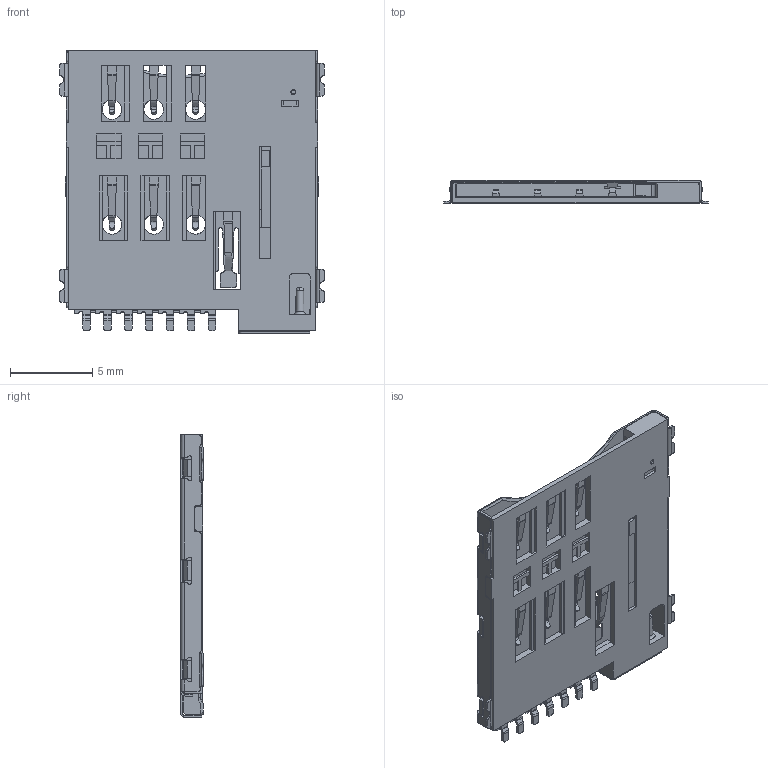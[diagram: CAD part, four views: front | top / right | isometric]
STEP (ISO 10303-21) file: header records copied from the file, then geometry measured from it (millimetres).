
FILE_DESCRIPTION(('CATIA V5 STEP Exchange'),'2;1');
FILE_NAME('F:\REF\特图电子-单阳光\2D\05-Sim Card\SIM CARD套用新图框\3D\MICRO-SIM_1050615AR004.stp','2020-09-05T08:09:33+00:00',('none'),('none'),'CATIA Version 5 Release 17 (IN-10)','CATIA V5 STEP AP203','none');
FILE_SCHEMA(('CONFIG_CONTROL_DESIGN'));
Length unit declared in the file: millimetre
Products named in the file (1): MICRO-SIM_1050615AR004
Bounding box: 16.1 x 1.37 x 17.15 mm (x, y, z)
Volume: 131.9 mm3; surface area: 1153.7 mm2
Topology: 1 solids, 1 shells, 1049 faces, 2837 edges, 1782 vertices
Faces by surface type: plane 633, cylinder 341, bspline 56, torus 10, cone 9
Entity records: 37444 total; most frequent: CARTESIAN_POINT 12637, ORIENTED_EDGE 5674, DIRECTION 4150, EDGE_CURVE 2837, VECTOR 2009, LINE 2009, VERTEX_POINT 1782, AXIS2_PLACEMENT_3D 1149
